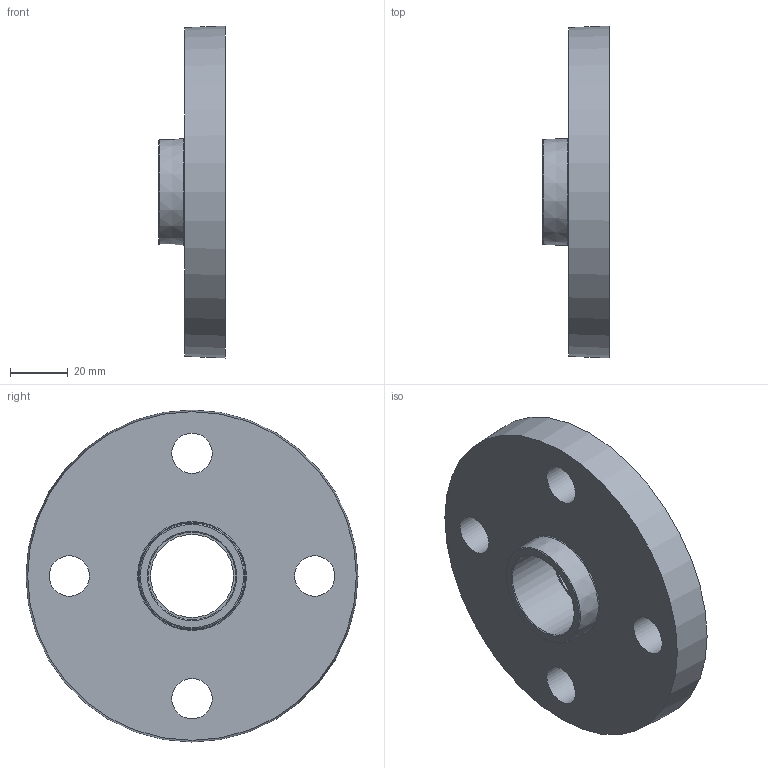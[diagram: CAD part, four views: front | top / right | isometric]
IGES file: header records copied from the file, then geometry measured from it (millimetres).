
Global section: file name: 059201010.ipt; native system: Autodesk Inventor 2015; preprocessor: unknown; author: KIM; date: 20171207.170009; units: millimetre
Bounding box: 23 x 115 x 115 mm (x, y, z)
Volume: 128468.2 mm3; surface area: 28799.2 mm2
Topology: 1 solids, 1 shells, 28 faces, 62 edges, 44 vertices
Faces by surface type: revolution 13, plane 10, cylinder 3, cone 2
Full cylindrical faces by diameter (mm): 30.532 x1, 32.832 x1, 35.132 x1
